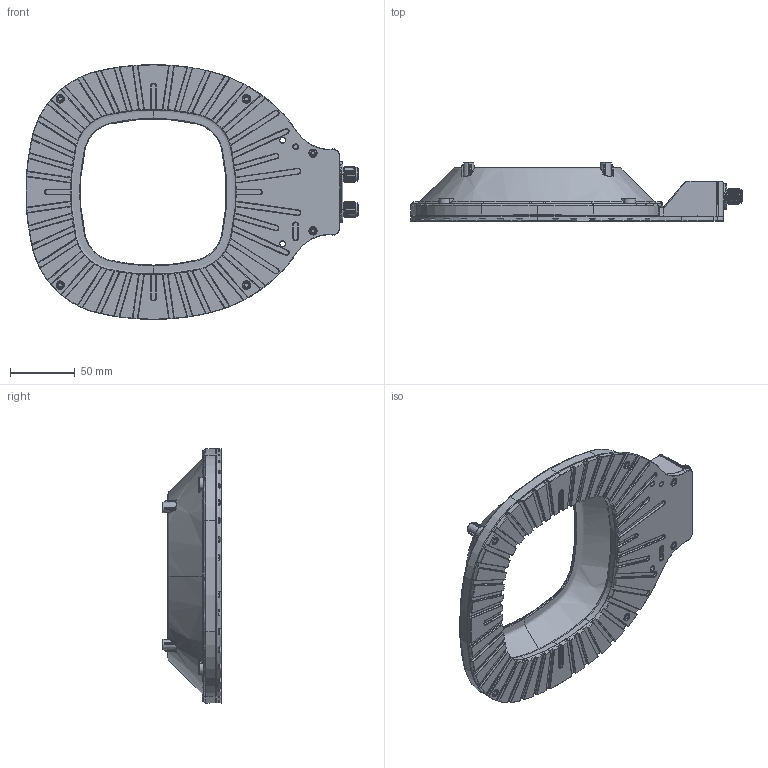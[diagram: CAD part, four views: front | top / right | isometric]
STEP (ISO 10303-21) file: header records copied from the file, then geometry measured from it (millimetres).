
FILE_DESCRIPTION (( 'STEP AP203' ), '1' );
FILE_NAME ('MR-130-LA.STEP', '2017-02-07T12:16:50', ( '' ), ( '' ), 'SwSTEP 2.0', 'SolidWorks 2014', '' );
FILE_SCHEMA (( 'CONFIG_CONTROL_DESIGN' ));
Length unit declared in the file: millimetre
Products named in the file (1): MR-130-LA
Bounding box: 256.72 x 45.5 x 196.96 mm (x, y, z)
Volume: 340260.7 mm3; surface area: 140138.5 mm2
Topology: 19 solids, 23 shells, 3199 faces, 7621 edges, 4280 vertices
Faces by surface type: cylinder 941, bspline 668, plane 618, torus 581, sphere 250, cone 141
Entity records: 126339 total; most frequent: CARTESIAN_POINT 58378, ORIENTED_EDGE 14634, DIRECTION 13971, EDGE_CURVE 7317, AXIS2_PLACEMENT_3D 5859, VERTEX_POINT 4276, EDGE_LOOP 3335, CIRCLE 3327
